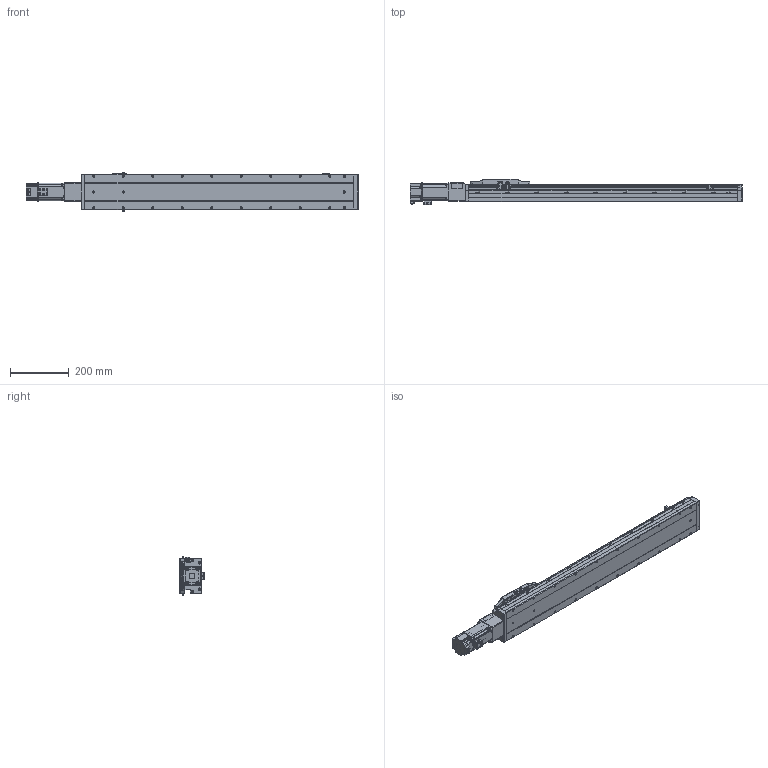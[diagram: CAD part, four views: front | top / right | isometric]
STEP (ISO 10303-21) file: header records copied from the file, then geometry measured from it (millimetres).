
FILE_DESCRIPTION (( 'STEP AP214' ), '1' );
FILE_NAME ('CTH12-L10-S700-BC-C40（简）.STEP', '2023-02-06T05:26:55', ( '' ), ( '' ), 'SwSTEP 2.0', 'SolidWorks 2018', '' );
FILE_SCHEMA (( 'AUTOMOTIVE_DESIGN' ));
Length unit declared in the file: millimetre
Products named in the file (23): CTH12-BC-06-T40（cth8-bc-06-t40-G）_1; 嫖萇羲壽郪磁1333; CTH12; CTH12-BC-03_1; 嫖萇羲壽郪磁2; 400W萇儂; CTH12賑怢郪磁; hex nuts, style 1-grades ab gb_GB_FASTENER_NUT_SNAB1 M3-N; CTH12-BL_body_4; CTH嫖萇羲壽假蚾啣; PM-Y45; M5蹟隊; CTH12底座-L911简（700行程）; CTH12覜茼え; CTH12萇儂釱; 蚐郲; 湮賑怢  裔赽-1(CTH12)賑怢; 内六角圆柱头螺钉M3; 内六角圆柱头螺钉M3-2; 内六角圆柱头螺钉M3-1; CTH12賑怢ㄗ潠ㄘ; CTH12_body_3; CTH12-L10-S700-BC-C40（简）
Assembly tree (43 placements, depth 4):
  CTH12-L10-S700-BC-C40（简）
    CTH12底座-L911简（700行程）
    蚐郲  x2
    CTH12-BL_body_4
    CTH12_body_3
    CTH12賑怢郪磁
      CTH12
        湮賑怢  裔赽-1(CTH12)賑怢
        CTH12賑怢ㄗ潠ㄘ
    CTH12覜茼え
    嫖萇羲壽郪磁2
      CTH嫖萇羲壽假蚾啣
      PM-Y45
      内六角圆柱头螺钉M3-1  x2
      内六角圆柱头螺钉M3-2  x2
      hex nuts, style 1-grades ab gb_GB_FASTENER_NUT_SNAB1 M3-N  x2
    CTH12萇儂釱
      CTH12-BC-03_1
      CTH12-BC-06-T40（cth8-bc-06-t40-G）_1
    嫖萇羲壽郪磁1333  x2
      CTH嫖萇羲壽假蚾啣
      PM-Y45
      内六角圆柱头螺钉M3-2
      内六角圆柱头螺钉M3-1
      hex nuts, style 1-grades ab gb_GB_FASTENER_NUT_SNAB1 M3-N
    内六角圆柱头螺钉M3  x6
    400W萇儂
    M5蹟隊  x4
Bounding box: 1125.8 x 86.5 x 131.52 mm (x, y, z)
Volume: 6455486.2 mm3; surface area: 633023.5 mm2
Topology: 45 solids, 47 shells, 2954 faces, 7330 edges, 4601 vertices
Faces by surface type: plane 1456, cylinder 887, cone 347, bspline 136, torus 124, sphere 4
Entity records: 91840 total; most frequent: CARTESIAN_POINT 31358, ORIENTED_EDGE 11762, DIRECTION 11476, EDGE_CURVE 5881, AXIS2_PLACEMENT_3D 4029, VERTEX_POINT 3705, LINE 3418, VECTOR 3418
